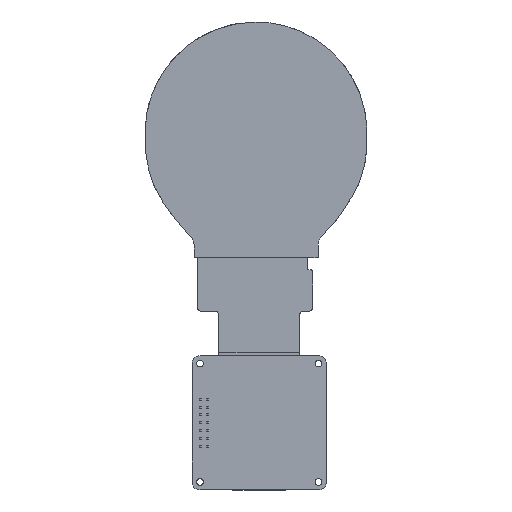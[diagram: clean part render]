
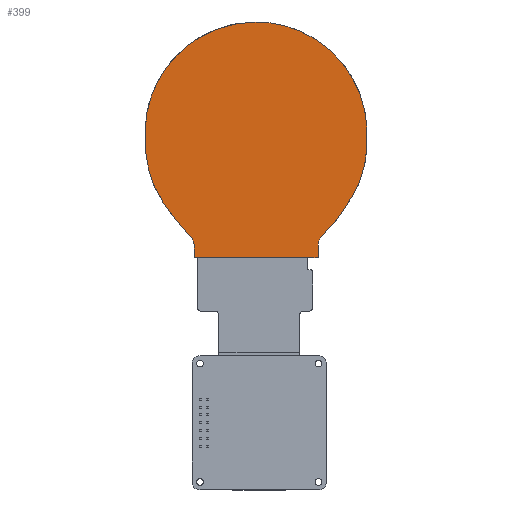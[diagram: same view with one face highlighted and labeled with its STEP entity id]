
A CAD part, top view. The second image highlights one B-rep face of the part: STEP entity #399.
In plain terms, the highlighted planar face has unit normal (0, 0, 1).
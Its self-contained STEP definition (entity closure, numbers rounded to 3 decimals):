
#135=CARTESIAN_POINT('',(15.7,-27.055,2.3));
#136=CARTESIAN_POINT('',(15.698,-26.834,2.3));
#137=CARTESIAN_POINT('',(15.693,-26.366,2.3));
#138=CARTESIAN_POINT('',(15.835,-25.57,2.3));
#139=CARTESIAN_POINT('',(16.325,-24.54,2.3));
#140=CARTESIAN_POINT('',(17.718,-23.275,2.3));
#141=CARTESIAN_POINT('',(19.484,-21.393,2.3));
#142=CARTESIAN_POINT('',(21.368,-18.928,2.3));
#143=CARTESIAN_POINT('',(23.157,-16.446,2.3));
#144=CARTESIAN_POINT('',(24.801,-13.807,2.3));
#145=CARTESIAN_POINT('',(26.046,-11.141,2.3));
#146=CARTESIAN_POINT('',(27.046,-8.258,2.3));
#147=CARTESIAN_POINT('',(27.697,-5.478,2.3));
#148=CARTESIAN_POINT('',(28.002,-2.99,2.3));
#149=CARTESIAN_POINT('',(28.105,-1.102,2.3));
#150=CARTESIAN_POINT('',(28.08,0.863,2.3));
#151=CARTESIAN_POINT('',(28.11,3.381,2.3));
#152=CARTESIAN_POINT('',(27.767,6.334,2.3));
#153=CARTESIAN_POINT('',(27.11,9.319,2.3));
#154=CARTESIAN_POINT('',(26.187,12.074,2.3));
#155=CARTESIAN_POINT('',(24.881,14.924,2.3));
#156=CARTESIAN_POINT('',(23.363,17.459,2.3));
#157=CARTESIAN_POINT('',(21.508,19.911,2.3));
#158=CARTESIAN_POINT('',(19.508,22.053,2.3));
#159=CARTESIAN_POINT('',(17.126,24.104,2.3));
#160=CARTESIAN_POINT('',(14.618,25.818,2.3));
#161=CARTESIAN_POINT('',(11.823,27.308,2.3));
#162=CARTESIAN_POINT('',(9.033,28.424,2.3));
#163=CARTESIAN_POINT('',(5.969,29.268,2.3));
#164=CARTESIAN_POINT('',(3.001,29.767,2.3));
#165=CARTESIAN_POINT('',(0.941,29.827,2.3));
#166=CARTESIAN_POINT('',(0.,29.855,2.3));
#168=CARTESIAN_POINT('',(15.7,-29.855,2.3));
#169=CARTESIAN_POINT('',(15.7,-28.922,2.3));
#170=CARTESIAN_POINT('',(15.7,-27.988,2.3));
#171=CARTESIAN_POINT('',(15.7,-27.055,2.3));
#173=CARTESIAN_POINT('',(-15.7,-29.855,2.3));
#174=CARTESIAN_POINT('',(-5.233,-29.855,2.3));
#175=CARTESIAN_POINT('',(5.233,-29.855,2.3));
#176=CARTESIAN_POINT('',(15.7,-29.855,2.3));
#178=CARTESIAN_POINT('',(0.,29.855,2.3));
#179=CARTESIAN_POINT('',(-0.941,29.827,2.3));
#180=CARTESIAN_POINT('',(-3.001,29.767,2.3));
#181=CARTESIAN_POINT('',(-5.969,29.268,2.3));
#182=CARTESIAN_POINT('',(-9.033,28.424,2.3));
#183=CARTESIAN_POINT('',(-11.823,27.308,2.3));
#184=CARTESIAN_POINT('',(-14.618,25.818,2.3));
#185=CARTESIAN_POINT('',(-17.126,24.104,2.3));
#186=CARTESIAN_POINT('',(-19.508,22.053,2.3));
#187=CARTESIAN_POINT('',(-21.508,19.911,2.3));
#188=CARTESIAN_POINT('',(-23.363,17.459,2.3));
#189=CARTESIAN_POINT('',(-24.881,14.924,2.3));
#190=CARTESIAN_POINT('',(-26.187,12.074,2.3));
#191=CARTESIAN_POINT('',(-27.11,9.319,2.3));
#192=CARTESIAN_POINT('',(-27.767,6.334,2.3));
#193=CARTESIAN_POINT('',(-28.11,3.381,2.3));
#194=CARTESIAN_POINT('',(-28.08,0.863,2.3));
#195=CARTESIAN_POINT('',(-28.105,-1.102,2.3));
#196=CARTESIAN_POINT('',(-28.002,-2.99,2.3));
#197=CARTESIAN_POINT('',(-27.697,-5.478,2.3));
#198=CARTESIAN_POINT('',(-27.046,-8.258,2.3));
#199=CARTESIAN_POINT('',(-26.046,-11.141,2.3));
#200=CARTESIAN_POINT('',(-24.801,-13.807,2.3));
#201=CARTESIAN_POINT('',(-23.157,-16.446,2.3));
#202=CARTESIAN_POINT('',(-21.368,-18.928,2.3));
#203=CARTESIAN_POINT('',(-19.484,-21.393,2.3));
#204=CARTESIAN_POINT('',(-17.718,-23.275,2.3));
#205=CARTESIAN_POINT('',(-16.325,-24.54,2.3));
#206=CARTESIAN_POINT('',(-15.836,-25.57,2.3));
#207=CARTESIAN_POINT('',(-15.693,-26.366,2.3));
#208=CARTESIAN_POINT('',(-15.704,-27.301,2.3));
#209=CARTESIAN_POINT('',(-15.699,-28.455,2.3));
#210=CARTESIAN_POINT('',(-15.7,-29.388,2.3));
#211=CARTESIAN_POINT('',(-15.7,-29.855,2.3));
#217=VERTEX_POINT('',#135);
#218=VERTEX_POINT('',#166);
#219=VERTEX_POINT('',#211);
#220=VERTEX_POINT('',#176);
#388=CARTESIAN_POINT('',(0.,0.,2.3));
#389=DIRECTION('',(0.,0.,1.));
#390=DIRECTION('',(1.,0.,0.));
#391=AXIS2_PLACEMENT_3D('',#388,#389,#390);
#392=PLANE('',#391);
#393=ORIENTED_EDGE('',*,*,#295,.F.);
#394=ORIENTED_EDGE('',*,*,#315,.F.);
#395=ORIENTED_EDGE('',*,*,#334,.F.);
#396=ORIENTED_EDGE('',*,*,#382,.F.);
#397=EDGE_LOOP('',(#393,#394,#395,#396));
#398=FACE_OUTER_BOUND('',#397,.F.);
#167=B_SPLINE_CURVE_WITH_KNOTS('',3,(#135,#136,#137,#138,#139,#140,#141,#142,
#143,#144,#145,#146,#147,#148,#149,#150,#151,#152,#153,#154,#155,#156,#157,#158,
#159,#160,#161,#162,#163,#164,#165,#166),.UNSPECIFIED.,.F.,.F.,(4,1,1,1,1,1,1,1,
1,1,1,1,1,1,1,1,1,1,1,1,1,1,1,1,1,1,1,1,1,4),(0.,0.009,
0.018,0.031,0.052,0.091,
0.133,0.174,0.211,0.255,
0.289,0.331,0.366,0.387,
0.405,0.443,0.486,0.521,
0.563,0.599,0.644,0.679,
0.72,0.758,0.802,0.839,
0.882,0.919,0.963,1.),.UNSPECIFIED.);
#172=B_SPLINE_CURVE_WITH_KNOTS('',3,(#168,#169,#170,#171),.UNSPECIFIED.,.F.,.F.,
(4,4),(0.,1.),.UNSPECIFIED.);
#177=B_SPLINE_CURVE_WITH_KNOTS('',3,(#173,#174,#175,#176),.UNSPECIFIED.,.F.,.F.,
(4,4),(0.,1.),.UNSPECIFIED.);
#212=B_SPLINE_CURVE_WITH_KNOTS('',3,(#178,#179,#180,#181,#182,#183,#184,#185,
#186,#187,#188,#189,#190,#191,#192,#193,#194,#195,#196,#197,#198,#199,#200,#201,
#202,#203,#204,#205,#206,#207,#208,#209,#210,#211),.UNSPECIFIED.,.F.,.F.,(4,1,1,
1,1,1,1,1,1,1,1,1,1,1,1,1,1,1,1,1,1,1,1,1,1,1,1,1,1,1,1,4),(0.,
0.036,0.078,0.113,0.156,
0.191,0.233,0.27,0.31,
0.344,0.386,0.422,0.462,
0.496,0.537,0.574,0.591,
0.611,0.646,0.686,0.719,
0.761,0.797,0.837,0.877,
0.914,0.934,0.947,0.956,
0.965,0.982,1.),.UNSPECIFIED.);
#295=EDGE_CURVE('',#217,#218,#167,.T.);
#315=EDGE_CURVE('',#220,#217,#172,.T.);
#334=EDGE_CURVE('',#219,#220,#177,.T.);
#382=EDGE_CURVE('',#218,#219,#212,.T.);
#399=ADVANCED_FACE('',(#398),#392,.T.);
